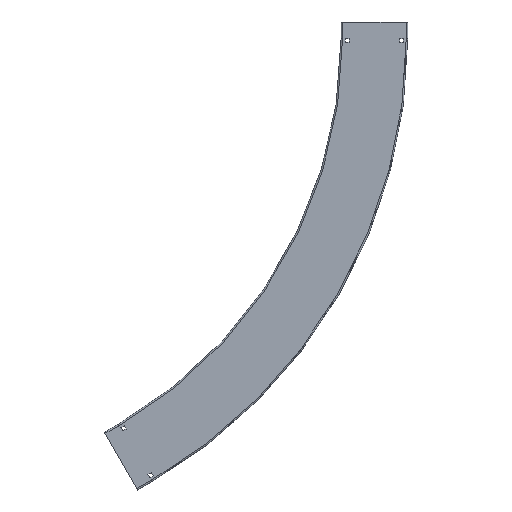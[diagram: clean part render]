
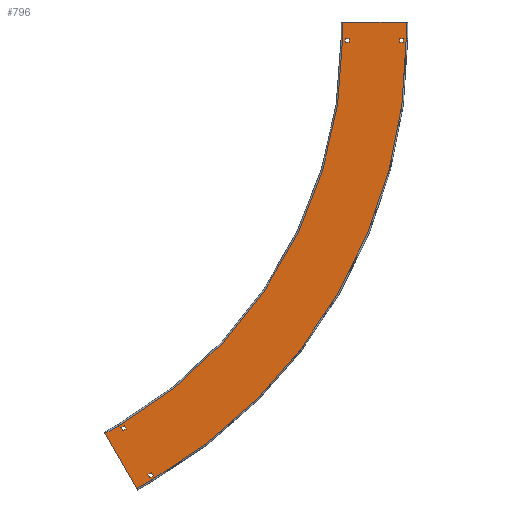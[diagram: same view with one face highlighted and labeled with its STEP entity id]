
A CAD part, left-side view. The second image highlights one B-rep face of the part: STEP entity #796.
In plain terms, the highlighted planar face has unit normal (-1, 0, 0).
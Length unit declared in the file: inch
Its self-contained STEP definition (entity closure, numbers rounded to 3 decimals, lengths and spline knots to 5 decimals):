
#1=DIRECTION('',(0.,-0.5,-0.866));
#2=VECTOR('',#1,6.858);
#3=CARTESIAN_POINT('',(0.,25.99446,48.52372));
#4=LINE('',#3,#2);
#5=DIRECTION('',(0.,1.,0.));
#6=VECTOR('',#5,6.858);
#7=CARTESIAN_POINT('',(0.,48.162,-1.75));
#8=LINE('',#7,#6);
#9=DIRECTION('',(0.,0.,-1.));
#10=VECTOR('',#9,0.41);
#11=CARTESIAN_POINT('',(0.,54.7135,0.455));
#12=LINE('',#11,#10);
#13=DIRECTION('',(0.,-1.,0.));
#14=VECTOR('',#13,0.41);
#15=CARTESIAN_POINT('',(0.,54.7135,0.045));
#16=LINE('',#15,#14);
#17=DIRECTION('',(0.,0.,1.));
#18=VECTOR('',#17,0.41);
#19=CARTESIAN_POINT('',(0.,54.3035,0.045));
#20=LINE('',#19,#18);
#21=DIRECTION('',(0.,1.,0.));
#22=VECTOR('',#21,0.41);
#23=CARTESIAN_POINT('',(0.,54.3035,0.455));
#24=LINE('',#23,#22);
#25=DIRECTION('',(0.,1.,0.));
#26=VECTOR('',#25,0.41);
#27=CARTESIAN_POINT('',(0.,48.4685,0.455));
#28=LINE('',#27,#26);
#29=DIRECTION('',(0.,0.,-1.));
#30=VECTOR('',#29,0.41);
#31=CARTESIAN_POINT('',(0.,48.8785,0.455));
#32=LINE('',#31,#30);
#33=DIRECTION('',(0.,-1.,0.));
#34=VECTOR('',#33,0.41);
#35=CARTESIAN_POINT('',(0.,48.8785,0.045));
#36=LINE('',#35,#34);
#37=DIRECTION('',(0.,0.,1.));
#38=VECTOR('',#37,0.41);
#39=CARTESIAN_POINT('',(0.,48.4685,0.045));
#40=LINE('',#39,#38);
#41=DIRECTION('',(0.,-0.5,-0.866));
#42=VECTOR('',#41,0.41);
#43=CARTESIAN_POINT('',(0.,24.83298,42.10198));
#44=LINE('',#43,#42);
#45=DIRECTION('',(0.,-0.866,0.5));
#46=VECTOR('',#45,0.41);
#47=CARTESIAN_POINT('',(0.,24.62798,41.74691));
#48=LINE('',#47,#46);
#49=DIRECTION('',(0.,0.5,0.866));
#50=VECTOR('',#49,0.41);
#51=CARTESIAN_POINT('',(0.,24.27291,41.95191));
#52=LINE('',#51,#50);
#53=DIRECTION('',(0.,0.866,-0.5));
#54=VECTOR('',#53,0.41);
#55=CARTESIAN_POINT('',(0.,24.47791,42.30698));
#56=LINE('',#55,#54);
#57=DIRECTION('',(0.,0.5,0.866));
#58=VECTOR('',#57,0.41);
#59=CARTESIAN_POINT('',(0.,27.19044,47.00523));
#60=LINE('',#59,#58);
#61=DIRECTION('',(0.,0.866,-0.5));
#62=VECTOR('',#61,0.41);
#63=CARTESIAN_POINT('',(0.,27.39544,47.3603));
#64=LINE('',#63,#62);
#65=DIRECTION('',(0.,-0.5,-0.866));
#66=VECTOR('',#65,0.41);
#67=CARTESIAN_POINT('',(0.,27.75051,47.1553));
#68=LINE('',#67,#66);
#69=DIRECTION('',(0.,-0.866,0.5));
#70=VECTOR('',#69,0.41);
#71=CARTESIAN_POINT('',(0.,27.54551,46.80023));
#72=LINE('',#71,#70);
#73=DIRECTION('',(0.,0.,1.));
#74=VECTOR('',#73,1.75);
#75=CARTESIAN_POINT('',(0.,55.02,-1.75));
#76=LINE('',#75,#74);
#114=DIRECTION('',(0.,0.,-1.));
#115=VECTOR('',#114,1.75);
#116=CARTESIAN_POINT('',(0.,48.162,0.));
#117=LINE('',#116,#115);
#123=CARTESIAN_POINT('',(0.,0.,0.));
#124=DIRECTION('',(-1.,0.,0.));
#125=DIRECTION('',(0.,0.5,0.866));
#126=AXIS2_PLACEMENT_3D('',#123,#124,#125);
#128=DIRECTION('',(0.,0.866,-0.5));
#129=VECTOR('',#128,1.75);
#130=CARTESIAN_POINT('',(0.,22.56546,42.58452));
#131=LINE('',#130,#129);
#169=DIRECTION('',(0.,-0.866,0.5));
#170=VECTOR('',#169,1.75);
#171=CARTESIAN_POINT('',(0.,27.51,47.64872));
#172=LINE('',#171,#170);
#178=CARTESIAN_POINT('',(0.,0.,0.));
#179=DIRECTION('',(1.,0.,0.));
#180=DIRECTION('',(0.,1.,0.));
#181=AXIS2_PLACEMENT_3D('',#178,#179,#180);
#573=CARTESIAN_POINT('',(0.,22.56546,42.58452));
#575=VERTEX_POINT('',#573);
#579=CARTESIAN_POINT('',(0.,24.081,41.70952));
#581=VERTEX_POINT('',#579);
#585=CARTESIAN_POINT('',(0.,48.162,0.));
#587=VERTEX_POINT('',#585);
#591=CARTESIAN_POINT('',(0.,48.162,-1.75));
#593=VERTEX_POINT('',#591);
#621=CARTESIAN_POINT('',(0.,55.02,-1.75));
#622=VERTEX_POINT('',#621);
#623=CARTESIAN_POINT('',(0.,25.99446,48.52372));
#624=VERTEX_POINT('',#623);
#629=CARTESIAN_POINT('',(0.,55.02,0.));
#631=VERTEX_POINT('',#629);
#635=CARTESIAN_POINT('',(0.,27.51,47.64872));
#637=VERTEX_POINT('',#635);
#669=CARTESIAN_POINT('',(0.,54.7135,0.455));
#670=CARTESIAN_POINT('',(0.,54.7135,0.045));
#671=VERTEX_POINT('',#669);
#672=VERTEX_POINT('',#670);
#673=CARTESIAN_POINT('',(0.,54.3035,0.045));
#674=VERTEX_POINT('',#673);
#675=CARTESIAN_POINT('',(0.,54.3035,0.455));
#676=VERTEX_POINT('',#675);
#677=CARTESIAN_POINT('',(0.,48.4685,0.455));
#678=CARTESIAN_POINT('',(0.,48.8785,0.455));
#679=VERTEX_POINT('',#677);
#680=VERTEX_POINT('',#678);
#681=CARTESIAN_POINT('',(0.,48.8785,0.045));
#682=VERTEX_POINT('',#681);
#683=CARTESIAN_POINT('',(0.,48.4685,0.045));
#684=VERTEX_POINT('',#683);
#701=CARTESIAN_POINT('',(0.,24.83298,42.10198));
#702=CARTESIAN_POINT('',(0.,24.62798,41.74691));
#703=VERTEX_POINT('',#701);
#704=VERTEX_POINT('',#702);
#705=CARTESIAN_POINT('',(0.,24.27291,41.95191));
#706=VERTEX_POINT('',#705);
#707=CARTESIAN_POINT('',(0.,24.47791,42.30698));
#708=VERTEX_POINT('',#707);
#709=CARTESIAN_POINT('',(0.,27.19044,47.00523));
#710=CARTESIAN_POINT('',(0.,27.39544,47.3603));
#711=VERTEX_POINT('',#709);
#712=VERTEX_POINT('',#710);
#713=CARTESIAN_POINT('',(0.,27.75051,47.1553));
#714=VERTEX_POINT('',#713);
#715=CARTESIAN_POINT('',(0.,27.54551,46.80023));
#716=VERTEX_POINT('',#715);
#733=CARTESIAN_POINT('',(0.,0.,0.));
#734=DIRECTION('',(1.,0.,0.));
#735=DIRECTION('',(0.,0.,-1.));
#736=AXIS2_PLACEMENT_3D('',#733,#734,#735);
#737=PLANE('',#736);
#739=ORIENTED_EDGE('',*,*,#738,.T.);
#741=ORIENTED_EDGE('',*,*,#740,.T.);
#743=ORIENTED_EDGE('',*,*,#742,.T.);
#745=ORIENTED_EDGE('',*,*,#744,.T.);
#747=ORIENTED_EDGE('',*,*,#746,.T.);
#749=ORIENTED_EDGE('',*,*,#748,.T.);
#751=ORIENTED_EDGE('',*,*,#750,.T.);
#753=ORIENTED_EDGE('',*,*,#752,.T.);
#754=EDGE_LOOP('',(#739,#741,#743,#745,#747,#749,#751,#753));
#755=FACE_OUTER_BOUND('',#754,.F.);
#757=ORIENTED_EDGE('',*,*,#756,.T.);
#759=ORIENTED_EDGE('',*,*,#758,.T.);
#761=ORIENTED_EDGE('',*,*,#760,.T.);
#763=ORIENTED_EDGE('',*,*,#762,.T.);
#764=EDGE_LOOP('',(#757,#759,#761,#763));
#765=FACE_BOUND('',#764,.F.);
#767=ORIENTED_EDGE('',*,*,#766,.T.);
#769=ORIENTED_EDGE('',*,*,#768,.T.);
#771=ORIENTED_EDGE('',*,*,#770,.T.);
#773=ORIENTED_EDGE('',*,*,#772,.T.);
#774=EDGE_LOOP('',(#767,#769,#771,#773));
#775=FACE_BOUND('',#774,.F.);
#777=ORIENTED_EDGE('',*,*,#776,.T.);
#779=ORIENTED_EDGE('',*,*,#778,.T.);
#781=ORIENTED_EDGE('',*,*,#780,.T.);
#783=ORIENTED_EDGE('',*,*,#782,.T.);
#784=EDGE_LOOP('',(#777,#779,#781,#783));
#785=FACE_BOUND('',#784,.F.);
#787=ORIENTED_EDGE('',*,*,#786,.T.);
#789=ORIENTED_EDGE('',*,*,#788,.T.);
#791=ORIENTED_EDGE('',*,*,#790,.T.);
#793=ORIENTED_EDGE('',*,*,#792,.T.);
#794=EDGE_LOOP('',(#787,#789,#791,#793));
#795=FACE_BOUND('',#794,.F.);
#796=ADVANCED_FACE('',(#755,#765,#775,#785,#795),#737,.F.);
#127=CIRCLE('',#126,48.162);
#182=CIRCLE('',#181,55.02);
#738=EDGE_CURVE('',#622,#631,#76,.T.);
#740=EDGE_CURVE('',#631,#637,#182,.T.);
#742=EDGE_CURVE('',#637,#624,#172,.T.);
#744=EDGE_CURVE('',#624,#575,#4,.T.);
#746=EDGE_CURVE('',#575,#581,#131,.T.);
#748=EDGE_CURVE('',#581,#587,#127,.T.);
#750=EDGE_CURVE('',#587,#593,#117,.T.);
#752=EDGE_CURVE('',#593,#622,#8,.T.);
#756=EDGE_CURVE('',#671,#672,#12,.T.);
#758=EDGE_CURVE('',#672,#674,#16,.T.);
#760=EDGE_CURVE('',#674,#676,#20,.T.);
#762=EDGE_CURVE('',#676,#671,#24,.T.);
#766=EDGE_CURVE('',#679,#680,#28,.T.);
#768=EDGE_CURVE('',#680,#682,#32,.T.);
#770=EDGE_CURVE('',#682,#684,#36,.T.);
#772=EDGE_CURVE('',#684,#679,#40,.T.);
#776=EDGE_CURVE('',#703,#704,#44,.T.);
#778=EDGE_CURVE('',#704,#706,#48,.T.);
#780=EDGE_CURVE('',#706,#708,#52,.T.);
#782=EDGE_CURVE('',#708,#703,#56,.T.);
#786=EDGE_CURVE('',#711,#712,#60,.T.);
#788=EDGE_CURVE('',#712,#714,#64,.T.);
#790=EDGE_CURVE('',#714,#716,#68,.T.);
#792=EDGE_CURVE('',#716,#711,#72,.T.);
